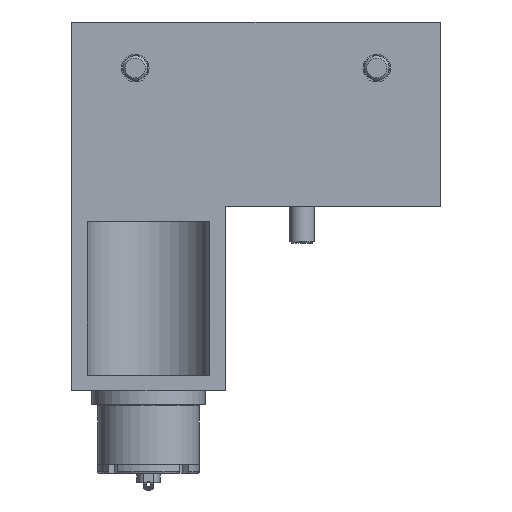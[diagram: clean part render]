
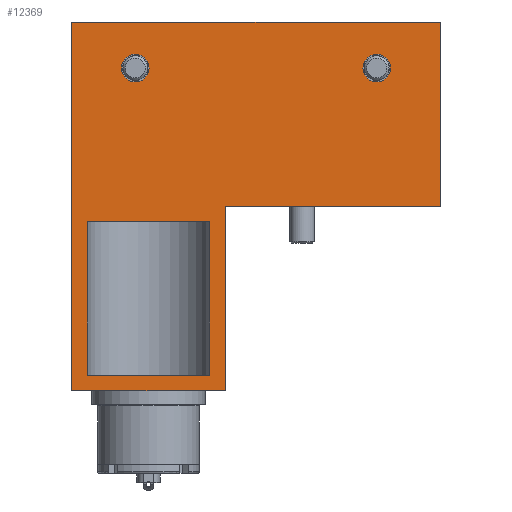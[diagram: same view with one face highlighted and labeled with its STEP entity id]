
A CAD part, front view. The second image highlights one B-rep face of the part: STEP entity #12369.
In plain terms, the highlighted planar face has unit normal (0, -1, 0).
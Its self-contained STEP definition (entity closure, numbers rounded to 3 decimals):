
#739=FACE_BOUND('',#4249,.T.);
#740=FACE_BOUND('',#4250,.T.);
#741=FACE_BOUND('',#4251,.T.);
#969=PLANE('',#14177);
#1584=LINE('',#22781,#2325);
#1589=LINE('',#22792,#2330);
#1591=LINE('',#22796,#2332);
#1592=LINE('',#22798,#2333);
#1609=LINE('',#22870,#2350);
#1646=LINE('',#22963,#2387);
#1648=LINE('',#22967,#2389);
#1664=LINE('',#23028,#2405);
#1666=LINE('',#23032,#2407);
#1671=LINE('',#23042,#2412);
#2325=VECTOR('',#17765,10.);
#2330=VECTOR('',#17776,10.);
#2332=VECTOR('',#17780,10.);
#2333=VECTOR('',#17783,10.);
#2350=VECTOR('',#17862,10.);
#2387=VECTOR('',#17949,10.);
#2389=VECTOR('',#17953,10.);
#2405=VECTOR('',#18019,10.);
#2407=VECTOR('',#18023,10.);
#2412=VECTOR('',#18034,10.);
#3452=FACE_OUTER_BOUND('',#4248,.T.);
#4248=EDGE_LOOP('',(#11320,#11321,#11322,#11323,#11324,#11325));
#4249=EDGE_LOOP('',(#11326,#11327,#11328,#11329));
#4250=EDGE_LOOP('',(#11330));
#4251=EDGE_LOOP('',(#11331));
#5161=CIRCLE('',#14164,4.5);
#5165=CIRCLE('',#14171,4.5);
#6204=VERTEX_POINT('',#22778);
#6205=VERTEX_POINT('',#22780);
#6208=VERTEX_POINT('',#22790);
#6209=VERTEX_POINT('',#22794);
#6232=VERTEX_POINT('',#22867);
#6233=VERTEX_POINT('',#22869);
#6264=VERTEX_POINT('',#22962);
#6265=VERTEX_POINT('',#22966);
#6274=VERTEX_POINT('',#22995);
#6278=VERTEX_POINT('',#23008);
#6285=VERTEX_POINT('',#23026);
#6286=VERTEX_POINT('',#23030);
#7873=EDGE_CURVE('',#6205,#6204,#1584,.T.);
#7879=EDGE_CURVE('',#6204,#6208,#1589,.T.);
#7881=EDGE_CURVE('',#6208,#6209,#1591,.T.);
#7882=EDGE_CURVE('',#6209,#6205,#1592,.T.);
#7915=EDGE_CURVE('',#6233,#6232,#1609,.T.);
#7962=EDGE_CURVE('',#6233,#6264,#1646,.T.);
#7964=EDGE_CURVE('',#6264,#6265,#1648,.T.);
#7978=EDGE_CURVE('',#6274,#6274,#5161,.T.);
#7984=EDGE_CURVE('',#6278,#6278,#5165,.T.);
#7993=EDGE_CURVE('',#6232,#6285,#1664,.T.);
#7995=EDGE_CURVE('',#6285,#6286,#1666,.T.);
#8000=EDGE_CURVE('',#6286,#6265,#1671,.T.);
#11320=ORIENTED_EDGE('',*,*,#7915,.T.);
#11321=ORIENTED_EDGE('',*,*,#7993,.T.);
#11322=ORIENTED_EDGE('',*,*,#7995,.T.);
#11323=ORIENTED_EDGE('',*,*,#8000,.T.);
#11324=ORIENTED_EDGE('',*,*,#7964,.F.);
#11325=ORIENTED_EDGE('',*,*,#7962,.F.);
#11326=ORIENTED_EDGE('',*,*,#7881,.T.);
#11327=ORIENTED_EDGE('',*,*,#7882,.T.);
#11328=ORIENTED_EDGE('',*,*,#7873,.T.);
#11329=ORIENTED_EDGE('',*,*,#7879,.T.);
#11330=ORIENTED_EDGE('',*,*,#7978,.T.);
#11331=ORIENTED_EDGE('',*,*,#7984,.T.);
#12369=ADVANCED_FACE('',(#3452,#739,#740,#741),#969,.T.);
#14164=AXIS2_PLACEMENT_3D('',#22997,#17989,#17990);
#14171=AXIS2_PLACEMENT_3D('',#23010,#18005,#18006);
#14177=AXIS2_PLACEMENT_3D('',#23041,#18032,#18033);
#17765=DIRECTION('',(-1.,0.,0.));
#17776=DIRECTION('',(0.,0.,1.));
#17780=DIRECTION('',(1.,0.,0.));
#17783=DIRECTION('',(0.,0.,-1.));
#17862=DIRECTION('',(1.,0.,0.));
#17949=DIRECTION('',(0.,0.,-1.));
#17953=DIRECTION('',(-1.,0.,0.));
#17989=DIRECTION('center_axis',(0.,1.,0.));
#17990=DIRECTION('ref_axis',(-1.,0.,0.));
#18005=DIRECTION('center_axis',(0.,1.,0.));
#18006=DIRECTION('ref_axis',(1.,0.,0.));
#18019=DIRECTION('',(0.,0.,1.));
#18023=DIRECTION('',(-1.,0.,0.));
#18032=DIRECTION('center_axis',(0.,-1.,0.));
#18033=DIRECTION('ref_axis',(0.,0.,-1.));
#18034=DIRECTION('',(0.,0.,-1.));
#22778=CARTESIAN_POINT('',(-70.,-60.,-55.));
#22780=CARTESIAN_POINT('',(-30.,-60.,-55.));
#22781=CARTESIAN_POINT('',(-22.5,-60.,-55.));
#22790=CARTESIAN_POINT('',(-70.,-60.,-5.));
#22792=CARTESIAN_POINT('',(-70.,-60.,-12.5));
#22794=CARTESIAN_POINT('',(-30.,-60.,-5.));
#22796=CARTESIAN_POINT('',(-42.5,-60.,-5.));
#22798=CARTESIAN_POINT('',(-30.,-60.,12.5));
#22867=CARTESIAN_POINT('',(45.,-60.,0.));
#22869=CARTESIAN_POINT('',(-25.,-60.,0.));
#22870=CARTESIAN_POINT('',(-75.,-60.,0.));
#22962=CARTESIAN_POINT('',(-25.,-60.,-60.));
#22963=CARTESIAN_POINT('',(-25.,-60.,0.));
#22966=CARTESIAN_POINT('',(-75.,-60.,-60.));
#22967=CARTESIAN_POINT('',(45.,-60.,-60.));
#22995=CARTESIAN_POINT('',(-49.809,-60.,45.));
#22997=CARTESIAN_POINT('Origin',(-54.309,-60.,45.));
#23008=CARTESIAN_POINT('',(19.809,-60.,45.));
#23010=CARTESIAN_POINT('Origin',(24.309,-60.,45.));
#23026=CARTESIAN_POINT('',(45.,-60.,60.));
#23028=CARTESIAN_POINT('',(45.,-60.,0.));
#23030=CARTESIAN_POINT('',(-75.,-60.,60.));
#23032=CARTESIAN_POINT('',(45.,-60.,60.));
#23041=CARTESIAN_POINT('Origin',(-15.,-60.,30.));
#23042=CARTESIAN_POINT('',(-75.,-60.,60.));
